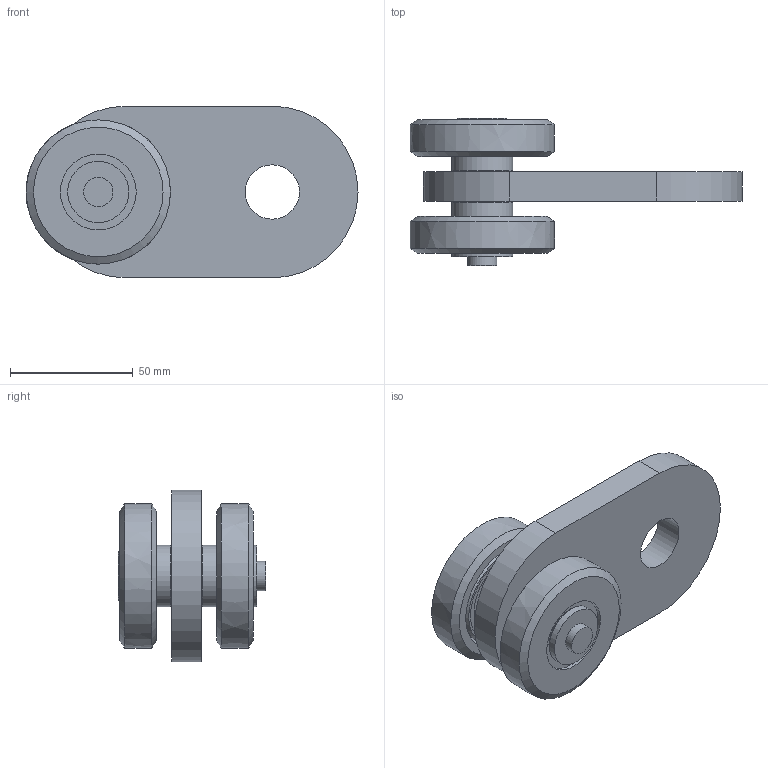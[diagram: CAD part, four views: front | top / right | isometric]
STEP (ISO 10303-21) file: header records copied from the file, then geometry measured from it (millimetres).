
FILE_DESCRIPTION(/* description */ ('Distanzring'),/* implementation_level */ '2;1');
FILE_NAME(/* name */ 'Q:\sge-ma\Produktmanagement-STB\STB\Workspace\stp\010336817.stp',/* time_stamp */ '2016-07-15T12:58:13+02:00',/* author */ ('avschreier'),/* organization */ (''),/* preprocessor_version */ 'ST-DEVELOPER v16.1',/* originating_system */ 'Autodesk Inventor 2016',/* authorisation */ '');
FILE_SCHEMA (('AUTOMOTIVE_DESIGN { 1 0 10303 214 3 1 1 }'));
Length unit declared in the file: millimetre
Products named in the file (8): 000226100; 000302018; 000302082; 337000287; DIN_625-6203_ZZ_en; 000303241; DIN_1440-12_en; 010336817
Assembly tree (9 placements, depth 3):
  010336817
    000226100  x2
    000302018
    000302082
    000303241  x2
      337000287
      DIN_625-6203_ZZ_en
    DIN_1440-12_en
Bounding box: 135.5 x 60 x 70 mm (x, y, z)
Volume: 166971.7 mm3; surface area: 61001.8 mm2
Topology: 9 solids, 11 shells, 144 faces, 389 edges, 253 vertices
Faces by surface type: plane 38, cylinder 37, torus 36, cone 17, sphere 14, bspline 2
Full cylindrical faces by diameter (mm): 12 x2, 16.9 x1, 17 x2, 17.2 x2, 17.3 x1, 22 x1, 22.2 x1, 24.36 x8, 25 x3, 31 x2, 32.64 x8, 40 x4
Entity records: 3061 total; most frequent: CARTESIAN_POINT 1142, DIRECTION 380, ORIENTED_EDGE 306, AXIS2_PLACEMENT_3D 186, EDGE_CURVE 153, EDGE_LOOP 145, VERTEX_POINT 120, CIRCLE 88
